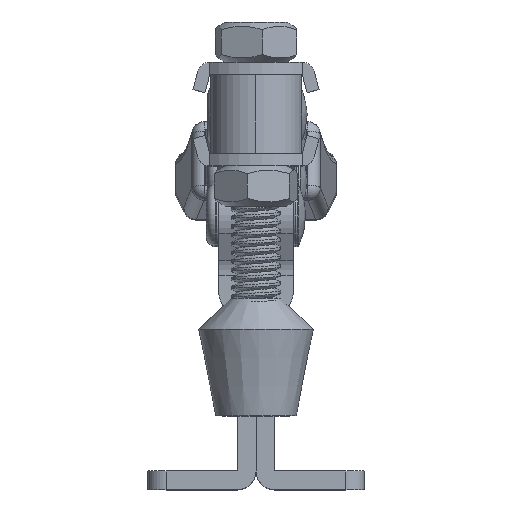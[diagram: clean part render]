
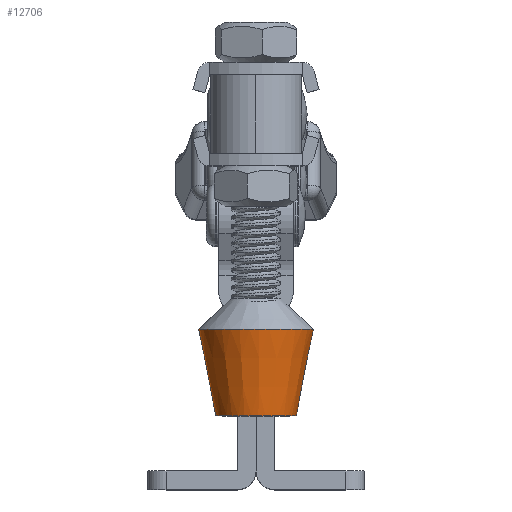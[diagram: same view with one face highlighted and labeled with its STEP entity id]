
A CAD part, top view. The second image highlights one B-rep face of the part: STEP entity #12706.
In plain terms, the highlighted conical face has half-angle 11.113 degrees and reference radius 9.25 mm.
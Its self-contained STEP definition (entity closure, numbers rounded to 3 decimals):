
#786=CONICAL_SURFACE('',#13603,9.25,0.194);
#835=FACE_OUTER_BOUND('',#1546,.T.);
#1546=EDGE_LOOP('',(#8826,#8827,#8828,#8829,#8830,#8831));
#2290=CIRCLE('',#13600,9.25);
#2291=CIRCLE('',#13601,9.25);
#2292=CIRCLE('',#13604,6.5);
#2293=CIRCLE('',#13605,6.5);
#3114=LINE('',#33967,#4234);
#4234=VECTOR('',#14588,9.25);
#5395=VERTEX_POINT('',#33959);
#5396=VERTEX_POINT('',#33960);
#5397=VERTEX_POINT('',#33966);
#5398=VERTEX_POINT('',#33968);
#6738=EDGE_CURVE('',#5395,#5396,#2290,.T.);
#6740=EDGE_CURVE('',#5396,#5395,#2291,.T.);
#6741=EDGE_CURVE('',#5395,#5397,#3114,.T.);
#6742=EDGE_CURVE('',#5397,#5398,#2292,.T.);
#6743=EDGE_CURVE('',#5398,#5397,#2293,.T.);
#8826=ORIENTED_EDGE('',*,*,#6738,.F.);
#8827=ORIENTED_EDGE('',*,*,#6741,.T.);
#8828=ORIENTED_EDGE('',*,*,#6742,.T.);
#8829=ORIENTED_EDGE('',*,*,#6743,.T.);
#8830=ORIENTED_EDGE('',*,*,#6741,.F.);
#8831=ORIENTED_EDGE('',*,*,#6740,.F.);
#12706=ADVANCED_FACE('',(#835),#786,.T.);
#13600=AXIS2_PLACEMENT_3D('',#33961,#14579,#14580);
#13601=AXIS2_PLACEMENT_3D('',#33963,#14582,#14583);
#13603=AXIS2_PLACEMENT_3D('',#33965,#14586,#14587);
#13604=AXIS2_PLACEMENT_3D('',#33969,#14589,#14590);
#13605=AXIS2_PLACEMENT_3D('',#33970,#14591,#14592);
#14579=DIRECTION('center_axis',(0.,0.,1.));
#14580=DIRECTION('ref_axis',(0.,-1.,0.));
#14582=DIRECTION('center_axis',(0.,0.,1.));
#14583=DIRECTION('ref_axis',(0.,-1.,0.));
#14586=DIRECTION('center_axis',(0.,0.,1.));
#14587=DIRECTION('ref_axis',(0.,-1.,0.));
#14588=DIRECTION('',(0.,-0.193,-0.981));
#14589=DIRECTION('center_axis',(0.,0.,1.));
#14590=DIRECTION('ref_axis',(0.,-1.,0.));
#14591=DIRECTION('center_axis',(0.,0.,1.));
#14592=DIRECTION('ref_axis',(0.,-1.,0.));
#33959=CARTESIAN_POINT('',(0.,9.25,5.5));
#33960=CARTESIAN_POINT('',(0.,-9.25,5.5));
#33961=CARTESIAN_POINT('Origin',(0.,0.,5.5));
#33963=CARTESIAN_POINT('Origin',(0.,0.,5.5));
#33965=CARTESIAN_POINT('Origin',(0.,0.,5.5));
#33966=CARTESIAN_POINT('',(0.,6.5,-8.5));
#33967=CARTESIAN_POINT('',(0.,9.25,5.5));
#33968=CARTESIAN_POINT('',(0.,-6.5,-8.5));
#33969=CARTESIAN_POINT('Origin',(0.,0.,-8.5));
#33970=CARTESIAN_POINT('Origin',(0.,0.,-8.5));
